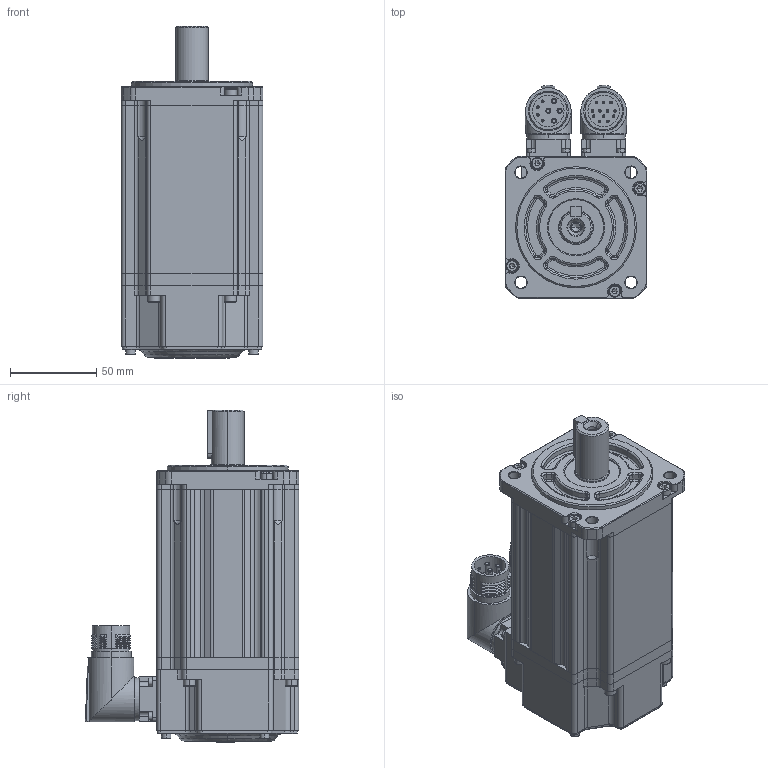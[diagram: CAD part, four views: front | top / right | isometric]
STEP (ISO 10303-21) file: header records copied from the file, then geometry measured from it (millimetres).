
FILE_DESCRIPTION (( 'STEP AP203' ), '1' );
FILE_NAME ('MC20-080-3L30-N751-1¡õPK-NNNN.STEP', '2025-05-04T11:46:55', ( '' ), ( '' ), 'SwSTEP 2.0', 'SolidWorks 2014', '' );
FILE_SCHEMA (( 'CONFIG_CONTROL_DESIGN' ));
Length unit declared in the file: millimetre
Products named in the file (1): MC20-080-3L30-N751-1¡õPK-NNNN
Bounding box: 82 x 123.35 x 192 mm (x, y, z)
Volume: 1039764.9 mm3; surface area: 152742.9 mm2
Topology: 28 solids, 28 shells, 1869 faces, 4422 edges, 2675 vertices
Faces by surface type: plane 754, cylinder 543, cone 316, torus 174, bspline 82
Entity records: 56181 total; most frequent: CARTESIAN_POINT 13056, DIRECTION 9351, ORIENTED_EDGE 8696, EDGE_CURVE 4348, AXIS2_PLACEMENT_3D 3609, VERTEX_POINT 2675, LINE 2133, VECTOR 2133
